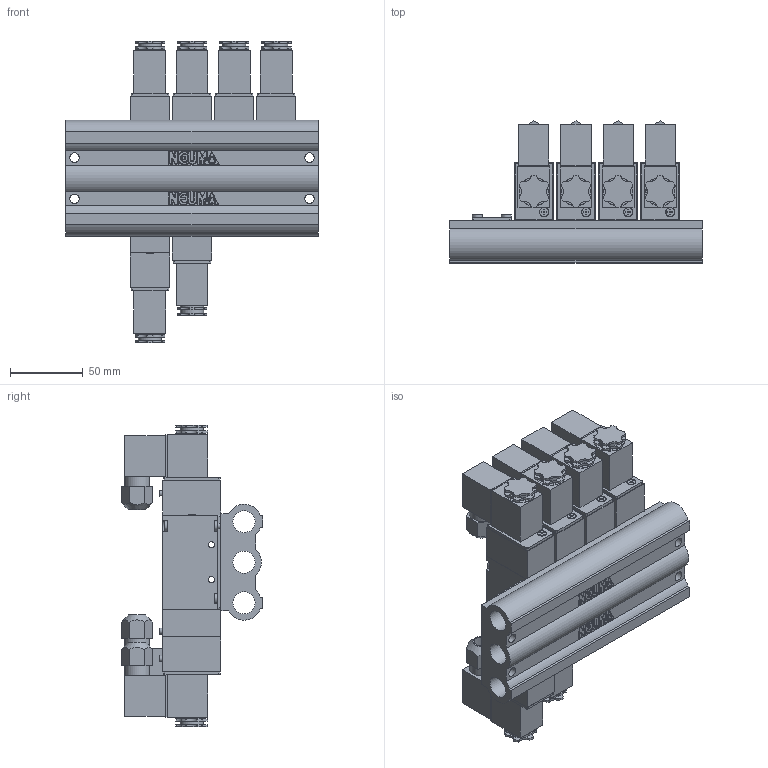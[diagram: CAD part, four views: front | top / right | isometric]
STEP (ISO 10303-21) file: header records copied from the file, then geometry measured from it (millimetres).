
FILE_DESCRIPTION (( 'STEP AP214' ), '1' );
FILE_NAME ('NVA-7500-D2.STEP', '2016-08-04T03:47:50', ( 'Casper' ), ( '' ), 'SwSTEP 2.0', 'SolidWorks 2015', '' );
FILE_SCHEMA (( 'AUTOMOTIVE_DESIGN' ));
Length unit declared in the file: millimetre
Products named in the file (19): NVA-7500-G01_NVA-7500底座蓋版; NVA-7532-D2; NVA-7500-D01_NVA7500中座; NVA-7522-D2; NVA-7521-D2; 2分-M8塑膠螺帽; 2分插頭型線圈(IP67); NV-5500-N01_NV5500手動操作器; 十字皿頭螺絲(M3x0.5x30); NVA-7500-G01; 可動鐵管件組(2分); 十字圓頭螺絲(M3x0.5x6); NVA-7500-K01; NVA-7500-J02; NVA-7500-C01; BM-75002-Y01; NVA-7500-D2; 十字圓頭螺絲(M4x0.5x6); 十字圓頭螺絲(M4x0.5x40)
Assembly tree (63 placements, depth 3):
  NVA-7500-D2
    BM-75002-Y01
    NVA-7521-D2  x2
      NVA-7500-C01
      NVA-7500-J02
      NVA-7500-K01
      十字圓頭螺絲(M3x0.5x6)
      可動鐵管件組(2分)
      NVA-7500-G01
      十字皿頭螺絲(M3x0.5x30)
      NV-5500-N01_NV5500手動操作器
      2分插頭型線圈(IP67)
      2分-M8塑膠螺帽
    NVA-7522-D2
      NVA-7500-C01
      NVA-7500-J02  x2
      可動鐵管件組(2分)  x2
      NVA-7500-G01  x2
      十字皿頭螺絲(M3x0.5x30)  x4
      NV-5500-N01_NV5500手動操作器  x2
      2分插頭型線圈(IP67)  x2
      2分-M8塑膠螺帽  x2
    NVA-7532-D2
      NVA-7500-C01
      NVA-7500-J02  x2
      可動鐵管件組(2分)  x2
      NVA-7500-G01  x2
      十字皿頭螺絲(M3x0.5x30)  x4
      NV-5500-N01_NV5500手動操作器  x2
      2分插頭型線圈(IP67)  x2
      2分-M8塑膠螺帽  x2
      NVA-7500-D01_NVA7500中座
    NVA-7500-G01_NVA-7500底座蓋版
    十字圓頭螺絲(M4x0.5x40)  x8
    十字圓頭螺絲(M4x0.5x6)  x2
Bounding box: 174 x 97.77 x 208 mm (x, y, z)
Volume: 926238.8 mm3; surface area: 315415 mm2
Topology: 95 solids, 95 shells, 3293 faces, 8438 edges, 5570 vertices
Faces by surface type: plane 1832, cylinder 780, bspline 483, cone 154, torus 44
Full cylindrical faces by diameter (mm): 1.7 x6, 2 x12, 2.459 x12, 2.5 x16, 3 x16, 3.3 x10, 3.4 x28, 3.5 x2, 4 x22, 4.3 x16, 5.5 x4, 6 x12, 6.4 x12, 6.5 x4, 6.9 x6, 7 x28, 8 x12, 8.9 x6, 9 x6, 10 x12, 10.44 x6, 10.5 x6, 11.7 x8, 11.94 x12, 12 x6, 14 x6, 15 x18, 15.25 x3, 16 x24, 17 x6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
Entity records: 36793 total; most frequent: CARTESIAN_POINT 10394, ORIENTED_EDGE 5604, DIRECTION 4001, EDGE_CURVE 2802, VERTEX_POINT 1925, VECTOR 1505, LINE 1505, EDGE_LOOP 1319
